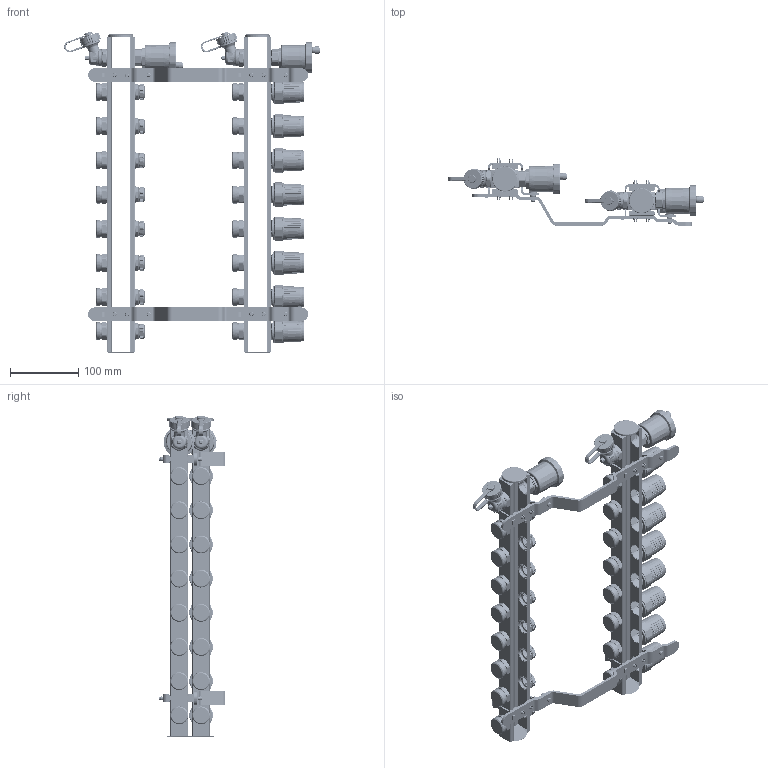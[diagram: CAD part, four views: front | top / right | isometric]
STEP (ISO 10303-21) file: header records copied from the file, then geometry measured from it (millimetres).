
FILE_DESCRIPTION(('STEP AP203'), '1');
FILE_NAME('VTc.594.EMNX.0608', '2025-11-26T12:28:51', ('verevichevva'), ('Vesta'), 'C3D Converter', 'C3D Toolkit', '');
FILE_SCHEMA(('CONFIG_CONTROL_DESIGN'));
Length unit declared in the file: millimetre
Products named in the file (1): ВР.622621.160.000 СБ
Bounding box: 374.1 x 97.53 x 469.67 mm (x, y, z)
Surface area: 308552.5 mm2 (no closed solid volume)
Topology: 0 solids, 1 shells, 13070 faces, 34274 edges, 20963 vertices
Faces by surface type: cylinder 3894, bspline 3184, plane 2740, torus 1628, cone 1296, sphere 328
Full cylindrical faces by diameter (mm): 4.2 x2, 6 x12, 6.8 x4, 7 x2, 8.352 x4, 8.4 x4, 9.5 x2, 11.2 x2, 11.5 x2, 12 x4, 16 x2, 17 x8, 18 x26, 20.8 x8, 21.5 x8, 23.3 x16, 24.5 x8, 25 x16, 25.8 x2, 26.1 x16, 28.4 x2, 33 x8, 34 x8
Entity records: 750556 total; most frequent: CARTESIAN_POINT 468522, ORIENTED_EDGE 66824, DIRECTION 46536, EDGE_CURVE 33418, VERTEX_POINT 20950, AXIS2_PLACEMENT_3D 19526, B_SPLINE_CURVE_WITH_KNOTS 16186, EDGE_LOOP 13930
